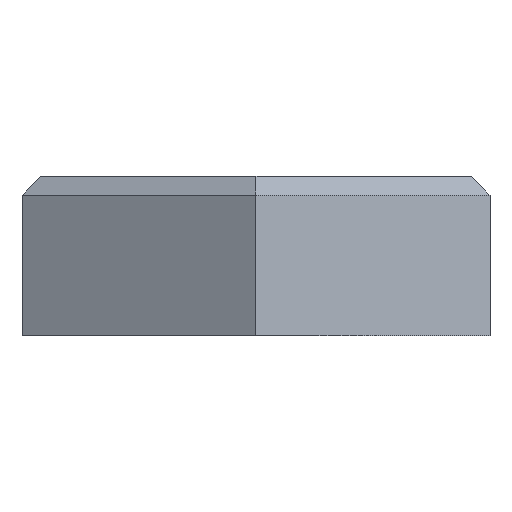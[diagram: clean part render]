
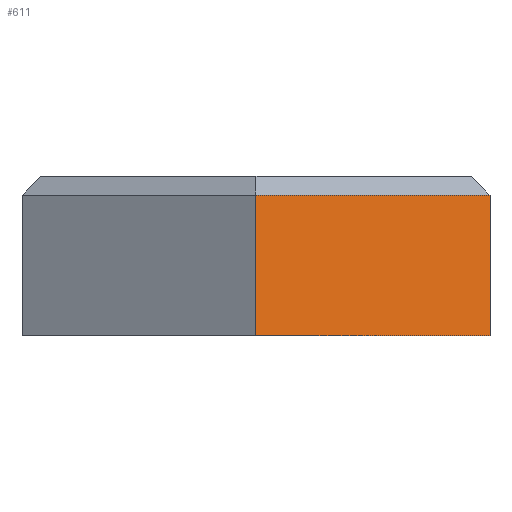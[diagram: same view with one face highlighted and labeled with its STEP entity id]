
A CAD part, front view. The second image highlights one B-rep face of the part: STEP entity #611.
In plain terms, the highlighted planar face has unit normal (0.5, -0.866, 0).
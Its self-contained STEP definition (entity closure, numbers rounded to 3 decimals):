
#44 = PLANE('',#45);
#45 = AXIS2_PLACEMENT_3D('',#46,#47,#48);
#46 = CARTESIAN_POINT('',(10.,-5.774,28.2));
#47 = DIRECTION('',(-1.,0.,0.));
#48 = DIRECTION('',(0.,1.,0.));
#126 = PLANE('',#127);
#127 = AXIS2_PLACEMENT_3D('',#128,#129,#130);
#128 = CARTESIAN_POINT('',(0.,0.,28.2)
  );
#129 = DIRECTION('',(0.,0.,1.));
#130 = DIRECTION('',(1.,0.,-0.));
#141 = EDGE_CURVE('',#142,#144,#146,.T.);
#142 = VERTEX_POINT('',#143);
#143 = CARTESIAN_POINT('',(10.,-5.774,28.2));
#144 = VERTEX_POINT('',#145);
#145 = CARTESIAN_POINT('',(10.,-5.774,34.2));
#146 = SURFACE_CURVE('',#147,(#151,#158),.PCURVE_S1.);
#147 = LINE('',#148,#149);
#148 = CARTESIAN_POINT('',(10.,-5.774,28.2));
#149 = VECTOR('',#150,1.);
#150 = DIRECTION('',(0.,0.,1.));
#151 = PCURVE('',#44,#152);
#152 = DEFINITIONAL_REPRESENTATION('',(#153),#157);
#153 = LINE('',#154,#155);
#154 = CARTESIAN_POINT('',(0.,0.));
#155 = VECTOR('',#156,1.);
#156 = DIRECTION('',(0.,-1.));
#157 = ( GEOMETRIC_REPRESENTATION_CONTEXT(2) 
PARAMETRIC_REPRESENTATION_CONTEXT() REPRESENTATION_CONTEXT('2D SPACE',''
  ) );
#158 = PCURVE('',#159,#164);
#159 = PLANE('',#160);
#160 = AXIS2_PLACEMENT_3D('',#161,#162,#163);
#161 = CARTESIAN_POINT('',(0.,-11.547,28.2));
#162 = DIRECTION('',(-0.5,0.866,0.));
#163 = DIRECTION('',(0.866,0.5,0.));
#164 = DEFINITIONAL_REPRESENTATION('',(#165),#169);
#165 = LINE('',#166,#167);
#166 = CARTESIAN_POINT('',(11.547,0.));
#167 = VECTOR('',#168,1.);
#168 = DIRECTION('',(0.,-1.));
#169 = ( GEOMETRIC_REPRESENTATION_CONTEXT(2) 
PARAMETRIC_REPRESENTATION_CONTEXT() REPRESENTATION_CONTEXT('2D SPACE',''
  ) );
#356 = VERTEX_POINT('',#357);
#357 = CARTESIAN_POINT('',(0.,-11.547,28.2));
#371 = PLANE('',#372);
#372 = AXIS2_PLACEMENT_3D('',#373,#374,#375);
#373 = CARTESIAN_POINT('',(-10.,-5.774,28.2));
#374 = DIRECTION('',(0.5,0.866,-0.));
#375 = DIRECTION('',(0.866,-0.5,0.));
#383 = EDGE_CURVE('',#356,#142,#384,.T.);
#384 = SURFACE_CURVE('',#385,(#389,#396),.PCURVE_S1.);
#385 = LINE('',#386,#387);
#386 = CARTESIAN_POINT('',(0.,-11.547,28.2));
#387 = VECTOR('',#388,1.);
#388 = DIRECTION('',(0.866,0.5,0.));
#389 = PCURVE('',#126,#390);
#390 = DEFINITIONAL_REPRESENTATION('',(#391),#395);
#391 = LINE('',#392,#393);
#392 = CARTESIAN_POINT('',(0.,-11.547));
#393 = VECTOR('',#394,1.);
#394 = DIRECTION('',(0.866,0.5));
#395 = ( GEOMETRIC_REPRESENTATION_CONTEXT(2) 
PARAMETRIC_REPRESENTATION_CONTEXT() REPRESENTATION_CONTEXT('2D SPACE',''
  ) );
#396 = PCURVE('',#159,#397);
#397 = DEFINITIONAL_REPRESENTATION('',(#398),#402);
#398 = LINE('',#399,#400);
#399 = CARTESIAN_POINT('',(0.,0.));
#400 = VECTOR('',#401,1.);
#401 = DIRECTION('',(1.,0.));
#402 = ( GEOMETRIC_REPRESENTATION_CONTEXT(2) 
PARAMETRIC_REPRESENTATION_CONTEXT() REPRESENTATION_CONTEXT('2D SPACE',''
  ) );
#611 = ADVANCED_FACE('',(#612),#159,.F.);
#612 = FACE_BOUND('',#613,.F.);
#613 = EDGE_LOOP('',(#614,#637,#663,#664));
#614 = ORIENTED_EDGE('',*,*,#615,.T.);
#615 = EDGE_CURVE('',#356,#616,#618,.T.);
#616 = VERTEX_POINT('',#617);
#617 = CARTESIAN_POINT('',(0.,-11.547,34.2));
#618 = SURFACE_CURVE('',#619,(#623,#630),.PCURVE_S1.);
#619 = LINE('',#620,#621);
#620 = CARTESIAN_POINT('',(0.,-11.547,28.2));
#621 = VECTOR('',#622,1.);
#622 = DIRECTION('',(0.,0.,1.));
#623 = PCURVE('',#159,#624);
#624 = DEFINITIONAL_REPRESENTATION('',(#625),#629);
#625 = LINE('',#626,#627);
#626 = CARTESIAN_POINT('',(0.,0.));
#627 = VECTOR('',#628,1.);
#628 = DIRECTION('',(0.,-1.));
#629 = ( GEOMETRIC_REPRESENTATION_CONTEXT(2) 
PARAMETRIC_REPRESENTATION_CONTEXT() REPRESENTATION_CONTEXT('2D SPACE',''
  ) );
#630 = PCURVE('',#371,#631);
#631 = DEFINITIONAL_REPRESENTATION('',(#632),#636);
#632 = LINE('',#633,#634);
#633 = CARTESIAN_POINT('',(11.547,0.));
#634 = VECTOR('',#635,1.);
#635 = DIRECTION('',(0.,-1.));
#636 = ( GEOMETRIC_REPRESENTATION_CONTEXT(2) 
PARAMETRIC_REPRESENTATION_CONTEXT() REPRESENTATION_CONTEXT('2D SPACE',''
  ) );
#637 = ORIENTED_EDGE('',*,*,#638,.T.);
#638 = EDGE_CURVE('',#616,#144,#639,.T.);
#639 = SURFACE_CURVE('',#640,(#644,#651),.PCURVE_S1.);
#640 = LINE('',#641,#642);
#641 = CARTESIAN_POINT('',(0.,-11.547,34.2));
#642 = VECTOR('',#643,1.);
#643 = DIRECTION('',(0.866,0.5,0.));
#644 = PCURVE('',#159,#645);
#645 = DEFINITIONAL_REPRESENTATION('',(#646),#650);
#646 = LINE('',#647,#648);
#647 = CARTESIAN_POINT('',(0.,-6.));
#648 = VECTOR('',#649,1.);
#649 = DIRECTION('',(1.,0.));
#650 = ( GEOMETRIC_REPRESENTATION_CONTEXT(2) 
PARAMETRIC_REPRESENTATION_CONTEXT() REPRESENTATION_CONTEXT('2D SPACE',''
  ) );
#651 = PCURVE('',#652,#657);
#652 = PLANE('',#653);
#653 = AXIS2_PLACEMENT_3D('',#654,#655,#656);
#654 = CARTESIAN_POINT('',(-0.2,-11.201,34.6));
#655 = DIRECTION('',(-0.354,0.612,-0.707));
#656 = DIRECTION('',(-0.866,-0.5,0.));
#657 = DEFINITIONAL_REPRESENTATION('',(#658),#662);
#658 = LINE('',#659,#660);
#659 = CARTESIAN_POINT('',(-0.,-0.566));
#660 = VECTOR('',#661,1.);
#661 = DIRECTION('',(-1.,0.));
#662 = ( GEOMETRIC_REPRESENTATION_CONTEXT(2) 
PARAMETRIC_REPRESENTATION_CONTEXT() REPRESENTATION_CONTEXT('2D SPACE',''
  ) );
#663 = ORIENTED_EDGE('',*,*,#141,.F.);
#664 = ORIENTED_EDGE('',*,*,#383,.F.);
